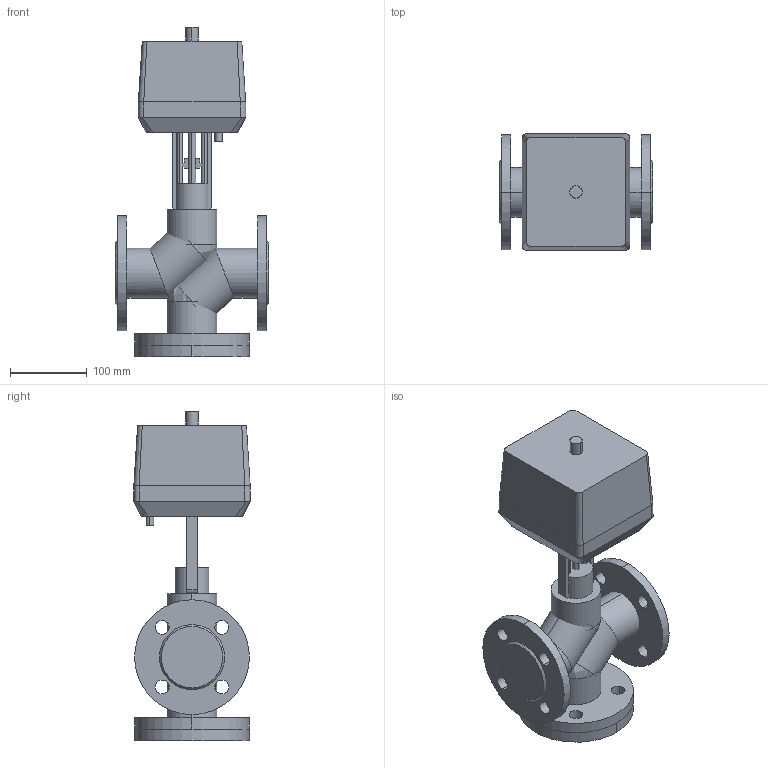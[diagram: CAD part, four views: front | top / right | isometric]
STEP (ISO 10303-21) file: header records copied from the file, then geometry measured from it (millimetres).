
FILE_DESCRIPTION(/* description */ (''),/* implementation_level */ '2;1');
FILE_NAME(/* name */ 'ТРК DN40 PN 1.6 МПа VTM-i 1000H',/* time_stamp */ '2026-07-14T23:23:12+03:00',/* author */ (''),/* organization */ (''),/* preprocessor_version */ 'ST-DEVELOPER v20',/* originating_system */ '',/* authorisation */ '');
FILE_SCHEMA (('AP242_MANAGED_MODEL_BASED_3D_ENGINEERING_MIM_LF { 1 0 10303 442 1 1 4 }'));
Length unit declared in the file: millimetre
Products named in the file (14): TopLevelAssembly; Выдавливание; Модификатор; Модификатор_1; Выдавливание_
1; Выдавливание_
2; Вращение; Выдавливание_
3; Выдавливание_
4; 1600; Переход; Объемная геометрия 
присоединена; Полый Выдавливание; Объемная геометрия 
присоединена_1
Assembly tree (13 placements, depth 2):
  TopLevelAssembly
    Выдавливание
    Модификатор
    Модификатор_1
    Выдавливание_
1
    Выдавливание_
2
    Вращение
    Выдавливание_
3
    Выдавливание_
4
    1600
    Переход
    Объемная геометрия 
присоединена
    Полый Выдавливание
    Объемная геометрия 
присоединена_1
Bounding box: 200 x 152 x 430 mm (x, y, z)
Volume: 4589528.9 mm3; surface area: 509046.7 mm2
Topology: 21 solids, 21 shells, 166 faces, 372 edges, 244 vertices
Faces by surface type: plane 78, cylinder 72, bspline 12, cone 4
Entity records: 5367 total; most frequent: CARTESIAN_POINT 1081, DIRECTION 906, ORIENTED_EDGE 728, EDGE_CURVE 364, AXIS2_PLACEMENT_3D 361, VERTEX_POINT 244, EDGE_LOOP 200, LINE 184
